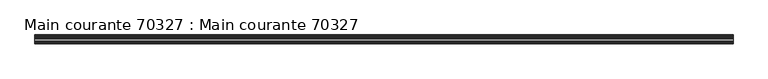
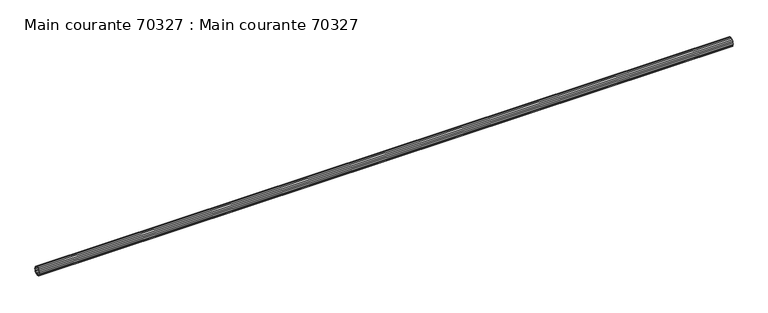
"""IFC4 building model written with IfcOpenShell, lengths in millimetres: beam geometry, Main courante 70327 : Main courante 70327."""

from ifc_helpers import new_model, si_unit, frame, origin, place, context, project, spatial, polyline, outline, extrude, source, transform, mapped, element, save


def main_courante_70327_main_courante_70327_6c495c5d(model_context):
    return source(origin(), model_context, "Body", "SweptSolid", [
        extrude(outline(polyline([(-14142.35, 9264.15), (-14134.8872396, 9262.9680149), (-14128.1549862, 9259.5377604), (-14122.8122396, 9254.1950138), (-14119.3819851, 9247.4627604), (-14118.2, 9240.0), (-14119.3819851, 9232.5372396), (-14122.8122396, 9225.8049862), (-14128.1549862, 9220.4622396), (-14134.8872396, 9217.0319851), (-14142.35, 9215.85), (-14149.8127604, 9217.0319851), (-14156.5450138, 9220.4622396), (-14161.8877604, 9225.8049862), (-14165.3180149, 9232.5372396), (-14166.5, 9240.0), (-14165.3180149, 9247.4627604), (-14161.8877604, 9254.1950138), (-14156.5450138, 9259.5377604), (-14149.8127604, 9262.9680149), (-14142.35, 9264.15)]), holes=[polyline([(-14121.7596264, 9246.6902179), (-14124.8347821, 9252.7255507), (-14129.6244493, 9257.5152179), (-14135.6597821, 9260.5903736), (-14142.35, 9261.65), (-14149.0402179, 9260.5903736), (-14155.0755507, 9257.5152179), (-14159.8652179, 9252.7255507), (-14162.9403736, 9246.6902179), (-14164.0, 9240.0), (-14162.9403736, 9233.3097821), (-14159.8652179, 9227.2744493), (-14155.0755507, 9222.4847821), (-14149.0402179, 9219.4096264), (-14142.35, 9218.35), (-14135.6597821, 9219.4096264), (-14129.6244493, 9222.4847821), (-14124.8347821, 9227.2744493), (-14121.7596264, 9233.3097821), (-14120.7, 9240.0), (-14121.7596264, 9246.6902179)])]), frame((7634.9999999, 0.0, 0.0), z_axis=(1.0, 0.0, 0.0), x_axis=(0.0, 1.0, 0.0)), (0.0, 0.0, 1.0), 3832.2815708),
    ])


if __name__ == "__main__":
    model = new_model("IFC4")
    model_context = context("Model", 3, world=origin())
    ifc_project = project(units=[si_unit("LENGTHUNIT", "METRE", prefix="MILLI")], contexts=[model_context])
    site = spatial("IfcSite", under=ifc_project)
    building = spatial("IfcBuilding", under=site)
    placement = place(None, origin())
    main_courante_70327_main_courante_70327_shape = main_courante_70327_main_courante_70327_6c495c5d(model_context)
    element("IfcBeam", 1, ObjectType="Main courante 70327 : Main courante 70327", at=placement, inside=building, context=model_context, shape_type="MappedRepresentation", body=[
        mapped(main_courante_70327_main_courante_70327_shape, transform((0.0, 0.0, 0.0), x_axis=(1.0, 0.0, 0.0), y_axis=(0.0, 1.0, 0.0), z_axis=(0.0, 0.0, 1.0))),
    ])
    save(model, "model.ifc")
